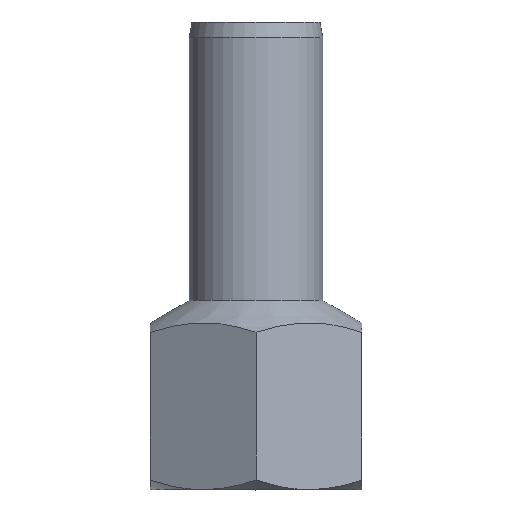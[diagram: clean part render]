
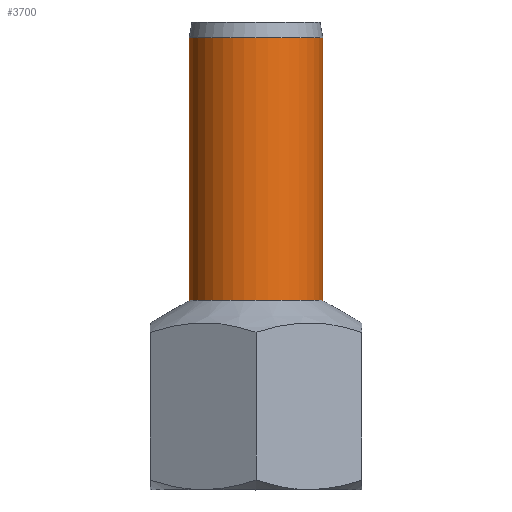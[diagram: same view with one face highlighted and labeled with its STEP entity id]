
A CAD part, top view. The second image highlights one B-rep face of the part: STEP entity #3700.
In plain terms, the highlighted cylindrical face has radius 6 mm (diameter 12 mm), a partial arc.
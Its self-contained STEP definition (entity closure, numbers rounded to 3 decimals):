
#3160=CARTESIAN_POINT('',(494.527,58.109,0.));
#3170=VERTEX_POINT('',#3160);
#3250=CARTESIAN_POINT('',(506.527,58.109,
0.));
#3260=VERTEX_POINT('',#3250);
#3290=CARTESIAN_POINT('',(500.527,58.109,0.));
#3300=DIRECTION('',(0.,1.,0.));
#3310=DIRECTION('',(1.,0.,0.));
#3320=AXIS2_PLACEMENT_3D('',#3290,#3300,#3310);
#3330=CIRCLE('',#3320,6.);
#3340=EDGE_CURVE('',#3170,#3260,#3330,.T.);
#3390=CARTESIAN_POINT('',(500.527,46.309,0.));
#3400=DIRECTION('',(0.,1.,0.));
#3410=DIRECTION('',(1.,0.,0.));
#3420=AXIS2_PLACEMENT_3D('',#3390,#3400,#3410);
#3430=CYLINDRICAL_SURFACE('',#3420,6.);
#3440=CARTESIAN_POINT('',(494.527,46.309,
0.));
#3450=DIRECTION('',(0.,1.,0.));
#3460=VECTOR('',#3450,1.);
#3470=LINE('',#3440,#3460);
#3480=CARTESIAN_POINT('',(494.527,34.509,
0.));
#3490=VERTEX_POINT('',#3480);
#3500=EDGE_CURVE('',#3490,#3170,#3470,.T.);
#3510=ORIENTED_EDGE('',*,*,#3500,.F.);
#3520=ORIENTED_EDGE('',*,*,#3340,.F.);
#3530=CARTESIAN_POINT('',(506.527,46.309,0.));
#3540=DIRECTION('',(0.,1.,0.));
#3550=VECTOR('',#3540,1.);
#3560=LINE('',#3530,#3550);
#3570=CARTESIAN_POINT('',(506.527,34.509,0.));
#3580=VERTEX_POINT('',#3570);
#3590=EDGE_CURVE('',#3580,#3260,#3560,.T.);
#3600=ORIENTED_EDGE('',*,*,#3590,.T.);
#3610=CARTESIAN_POINT('',(500.527,34.509,0.));
#3620=DIRECTION('',(0.,1.,0.));
#3630=DIRECTION('',(1.,0.,0.));
#3640=AXIS2_PLACEMENT_3D('',#3610,#3620,#3630);
#3650=CIRCLE('',#3640,6.);
#3660=EDGE_CURVE('',#3490,#3580,#3650,.T.);
#3670=ORIENTED_EDGE('',*,*,#3660,.T.);
#3680=EDGE_LOOP('',(#3670,#3600,#3520,#3510));
#3690=FACE_OUTER_BOUND('',#3680,.T.);
#3700=ADVANCED_FACE('',(#3690),#3430,.T.);
